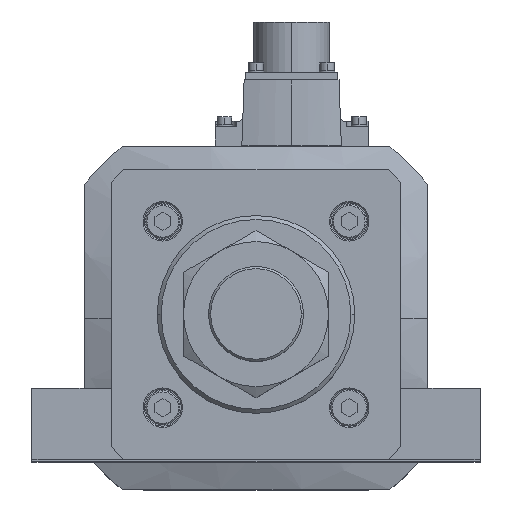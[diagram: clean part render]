
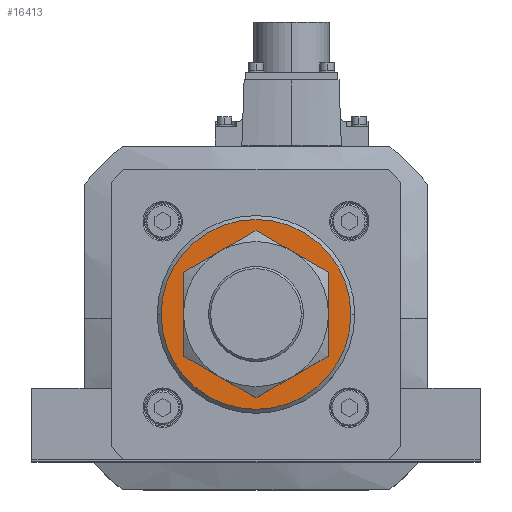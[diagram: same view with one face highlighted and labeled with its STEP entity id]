
A CAD part, top view. The second image highlights one B-rep face of the part: STEP entity #16413.
In plain terms, the highlighted planar face has unit normal (0, 0, 1).
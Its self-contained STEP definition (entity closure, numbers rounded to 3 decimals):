
#1060 = FACE_BOUND ( 'NONE', #23076, .T. ) ;
#1244 = DIRECTION ( 'NONE',  ( 0., 0., 1. ) ) ;
#1686 = CARTESIAN_POINT ( 'NONE',  ( 0., 0., 546. ) ) ;
#3907 = VERTEX_POINT ( 'NONE', #35816 ) ;
#3936 = DIRECTION ( 'NONE',  ( 1., 0., 0. ) ) ;
#4370 = VERTEX_POINT ( 'NONE', #6177 ) ;
#4695 = ORIENTED_EDGE ( 'NONE', *, *, #36081, .T. ) ;
#4827 = DIRECTION ( 'NONE',  ( 0., 0., 1. ) ) ;
#5659 = AXIS2_PLACEMENT_3D ( 'NONE', #18550, #30858, #3936 ) ;
#6177 = CARTESIAN_POINT ( 'NONE',  ( -36., 0., 546. ) ) ;
#7203 = ORIENTED_EDGE ( 'NONE', *, *, #37009, .T. ) ;
#7648 = PLANE ( 'NONE',  #31416 ) ;
#8151 = DIRECTION ( 'NONE',  ( 1., 0., 0. ) ) ;
#9394 = EDGE_CURVE ( 'NONE', #14098, #4370, #10941, .T. ) ;
#10941 = CIRCLE ( 'NONE', #26408, 36. ) ;
#12452 = FACE_OUTER_BOUND ( 'NONE', #15373, .T. ) ;
#12494 = AXIS2_PLACEMENT_3D ( 'NONE', #33054, #15609, #35523 ) ;
#12708 = ORIENTED_EDGE ( 'NONE', *, *, #9394, .T. ) ;
#12983 = AXIS2_PLACEMENT_3D ( 'NONE', #37130, #4827, #36883 ) ;
#14098 = VERTEX_POINT ( 'NONE', #27640 ) ;
#15373 = EDGE_LOOP ( 'NONE', ( #4695, #12708 ) ) ;
#15609 = DIRECTION ( 'NONE',  ( 0., 0., -1. ) ) ;
#15847 = CARTESIAN_POINT ( 'NONE',  ( 0., 0., 546. ) ) ;
#16413 = ADVANCED_FACE ( 'NONE', ( #1060, #12452 ), #7648, .T. ) ;
#18550 = CARTESIAN_POINT ( 'NONE',  ( 0., 0., 546. ) ) ;
#18836 = VERTEX_POINT ( 'NONE', #32244 ) ;
#23076 = EDGE_LOOP ( 'NONE', ( #7203, #27624 ) ) ;
#23104 = CIRCLE ( 'NONE', #12494, 23. ) ;
#26408 = AXIS2_PLACEMENT_3D ( 'NONE', #1686, #34000, #33865 ) ;
#27624 = ORIENTED_EDGE ( 'NONE', *, *, #35203, .T. ) ;
#27640 = CARTESIAN_POINT ( 'NONE',  ( 36., 0., 546. ) ) ;
#30858 = DIRECTION ( 'NONE',  ( 0., 0., -1. ) ) ;
#31416 = AXIS2_PLACEMENT_3D ( 'NONE', #15847, #1244, #8151 ) ;
#32141 = CIRCLE ( 'NONE', #12983, 36. ) ;
#32244 = CARTESIAN_POINT ( 'NONE',  ( 23., 0., 546. ) ) ;
#33054 = CARTESIAN_POINT ( 'NONE',  ( 0., 0., 546. ) ) ;
#33865 = DIRECTION ( 'NONE',  ( 1., 0., 0. ) ) ;
#34000 = DIRECTION ( 'NONE',  ( 0., 0., 1. ) ) ;
#35203 = EDGE_CURVE ( 'NONE', #3907, #18836, #23104, .T. ) ;
#35523 = DIRECTION ( 'NONE',  ( 1., 0., 0. ) ) ;
#35816 = CARTESIAN_POINT ( 'NONE',  ( -23., 0., 546. ) ) ;
#36081 = EDGE_CURVE ( 'NONE', #4370, #14098, #32141, .T. ) ;
#36883 = DIRECTION ( 'NONE',  ( 1., 0., 0. ) ) ;
#37009 = EDGE_CURVE ( 'NONE', #18836, #3907, #37118, .T. ) ;
#37118 = CIRCLE ( 'NONE', #5659, 23. ) ;
#37130 = CARTESIAN_POINT ( 'NONE',  ( 0., 0., 546. ) ) ;
